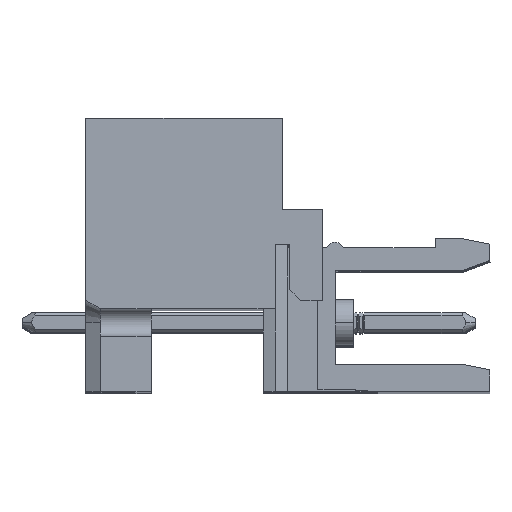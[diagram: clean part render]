
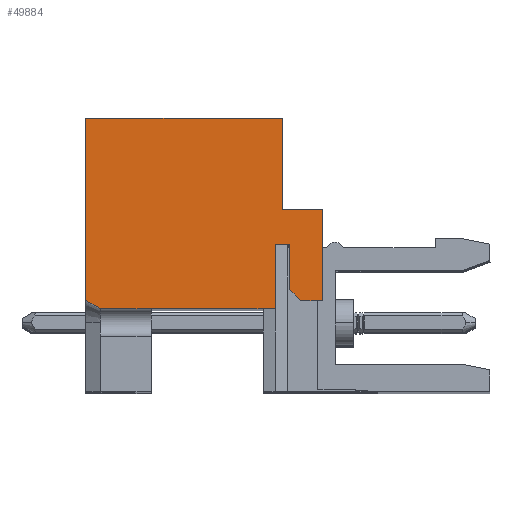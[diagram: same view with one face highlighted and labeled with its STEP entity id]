
A CAD part, top view. The second image highlights one B-rep face of the part: STEP entity #49884.
In plain terms, the highlighted planar face has unit normal (0, 0, 1).
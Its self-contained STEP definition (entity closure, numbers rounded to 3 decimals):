
#10965 = DIRECTION ( 'NONE',  ( 0., 1., 0. ) ) ;
#10966 = VECTOR ( 'NONE', #10965, 1000. ) ;
#10968 = CARTESIAN_POINT ( 'NONE',  ( 8.107, -2.697, 0. ) ) ;
#10969 = LINE ( 'NONE', #10968, #10966 ) ;
#11004 = CARTESIAN_POINT ( 'NONE',  ( 8.107, -0.197, 0. ) ) ;
#11005 = DIRECTION ( 'NONE',  ( 1., 0., 0. ) ) ;
#11006 = DIRECTION ( 'NONE',  ( 0., 0., 1. ) ) ;
#11007 = CARTESIAN_POINT ( 'NONE',  ( -4.893, -5.647, 0. ) ) ;
#11008 = AXIS2_PLACEMENT_3D ( 'NONE', #11007, #11006, #11005 ) ;
#11009 = PLANE ( 'NONE',  #11008 ) ;
#11010 = FACE_OUTER_BOUND ( 'NONE', #49885, .T. ) ;
#11011 = DIRECTION ( 'NONE',  ( 1., 0., 0. ) ) ;
#11012 = VECTOR ( 'NONE', #11011, 1000. ) ;
#11013 = CARTESIAN_POINT ( 'NONE',  ( 1.607, -5.197, 0. ) ) ;
#11014 = LINE ( 'NONE', #11013, #11012 ) ;
#11015 = CARTESIAN_POINT ( 'NONE',  ( 8.107, -5.197, 0. ) ) ;
#11022 = DIRECTION ( 'NONE',  ( -1., 0., 0. ) ) ;
#11023 = VECTOR ( 'NONE', #11022, 1000. ) ;
#11024 = CARTESIAN_POINT ( 'NONE',  ( 0.507, 4.803, 0. ) ) ;
#11025 = LINE ( 'NONE', #11024, #11023 ) ;
#11026 = CARTESIAN_POINT ( 'NONE',  ( 5.907, 4.803, 0. ) ) ;
#11027 = DIRECTION ( 'NONE',  ( 0., 1., 0. ) ) ;
#11028 = VECTOR ( 'NONE', #11027, 1000. ) ;
#11029 = CARTESIAN_POINT ( 'NONE',  ( 5.907, 2.303, 0. ) ) ;
#11030 = LINE ( 'NONE', #11029, #11028 ) ;
#11031 = CARTESIAN_POINT ( 'NONE',  ( 5.907, -0.197, 0. ) ) ;
#11032 = DIRECTION ( 'NONE',  ( -1., 0., 0. ) ) ;
#11033 = VECTOR ( 'NONE', #11032, 1000. ) ;
#11034 = CARTESIAN_POINT ( 'NONE',  ( 7.007, -0.197, 0. ) ) ;
#11035 = LINE ( 'NONE', #11034, #11033 ) ;
#11123 = DIRECTION ( 'NONE',  ( 1., 0., 0. ) ) ;
#11124 = VECTOR ( 'NONE', #11123, 1000. ) ;
#11125 = CARTESIAN_POINT ( 'NONE',  ( 2.107, -5.647, 0. ) ) ;
#11126 = LINE ( 'NONE', #11125, #11124 ) ;
#16646 = CARTESIAN_POINT ( 'NONE',  ( -4.893, -5.185, 0. ) ) ;
#16647 = DIRECTION ( 'NONE',  ( -0.866, 0.5, 0. ) ) ;
#16648 = VECTOR ( 'NONE', #16647, 1000. ) ;
#16649 = CARTESIAN_POINT ( 'NONE',  ( -4.493, -5.416, 0. ) ) ;
#16655 = LINE ( 'NONE', #16649, #16648 ) ;
#16659 = CARTESIAN_POINT ( 'NONE',  ( -4.093, -5.647, 0. ) ) ;
#42340 = VERTEX_POINT ( 'NONE', #78448 ) ;
#42343 = EDGE_CURVE ( 'NONE', #42416, #42340, #78447, .T. ) ;
#42408 = VERTEX_POINT ( 'NONE', #78561 ) ;
#42416 = VERTEX_POINT ( 'NONE', #78550 ) ;
#42442 = VERTEX_POINT ( 'NONE', #78576 ) ;
#42445 = EDGE_CURVE ( 'NONE', #42408, #53215, #78634, .T. ) ;
#42458 = EDGE_CURVE ( 'NONE', #53209, #42460, #78605, .T. ) ;
#42460 = VERTEX_POINT ( 'NONE', #78668 ) ;
#42474 = EDGE_CURVE ( 'NONE', #42508, #42442, #78653, .T. ) ;
#42489 = VERTEX_POINT ( 'NONE', #78696 ) ;
#42494 = EDGE_CURVE ( 'NONE', #42442, #42489, #78687, .T. ) ;
#42508 = VERTEX_POINT ( 'NONE', #78720 ) ;
#42533 = EDGE_CURVE ( 'NONE', #42489, #42416, #78750, .T. ) ;
#49852 = ORIENTED_EDGE ( 'NONE', *, *, #42474, .T. ) ;
#49866 = EDGE_CURVE ( 'NONE', #49881, #49891, #10969, .T. ) ;
#49867 = ORIENTED_EDGE ( 'NONE', *, *, #49868, .T. ) ;
#49868 = EDGE_CURVE ( 'NONE', #49891, #49869, #11035, .T. ) ;
#49869 = VERTEX_POINT ( 'NONE', #11031 ) ;
#49870 = ORIENTED_EDGE ( 'NONE', *, *, #49871, .T. ) ;
#49871 = EDGE_CURVE ( 'NONE', #49869, #49872, #11030, .T. ) ;
#49872 = VERTEX_POINT ( 'NONE', #11026 ) ;
#49873 = ORIENTED_EDGE ( 'NONE', *, *, #49874, .T. ) ;
#49874 = EDGE_CURVE ( 'NONE', #49872, #42408, #11025, .T. ) ;
#49875 = ORIENTED_EDGE ( 'NONE', *, *, #42445, .T. ) ;
#49876 = ORIENTED_EDGE ( 'NONE', *, *, #53214, .F. ) ;
#49877 = ORIENTED_EDGE ( 'NONE', *, *, #42458, .T. ) ;
#49878 = ORIENTED_EDGE ( 'NONE', *, *, #49940, .T. ) ;
#49881 = VERTEX_POINT ( 'NONE', #11015 ) ;
#49883 = EDGE_CURVE ( 'NONE', #42340, #49881, #11014, .T. ) ;
#49884 = ADVANCED_FACE ( 'NONE', ( #11010 ), #11009, .T. ) ;
#49885 = EDGE_LOOP ( 'NONE', ( #49886, #49887, #49888, #49889, #49890, #49867, #49870, #49873, #49875, #49876, #49877, #49878, #49852 ) ) ;
#49886 = ORIENTED_EDGE ( 'NONE', *, *, #42494, .T. ) ;
#49887 = ORIENTED_EDGE ( 'NONE', *, *, #42533, .T. ) ;
#49888 = ORIENTED_EDGE ( 'NONE', *, *, #42343, .T. ) ;
#49889 = ORIENTED_EDGE ( 'NONE', *, *, #49883, .T. ) ;
#49890 = ORIENTED_EDGE ( 'NONE', *, *, #49866, .T. ) ;
#49891 = VERTEX_POINT ( 'NONE', #11004 ) ;
#49940 = EDGE_CURVE ( 'NONE', #42460, #42508, #11126, .T. ) ;
#53209 = VERTEX_POINT ( 'NONE', #16659 ) ;
#53214 = EDGE_CURVE ( 'NONE', #53209, #53215, #16655, .T. ) ;
#53215 = VERTEX_POINT ( 'NONE', #16646 ) ;
#78444 = DIRECTION ( 'NONE',  ( 0.707, -0.707, 0. ) ) ;
#78445 = VECTOR ( 'NONE', #78444, 1000. ) ;
#78446 = CARTESIAN_POINT ( 'NONE',  ( 6.307, -4.597, 0. ) ) ;
#78447 = LINE ( 'NONE', #78446, #78445 ) ;
#78448 = CARTESIAN_POINT ( 'NONE',  ( 6.907, -5.197, 0. ) ) ;
#78550 = CARTESIAN_POINT ( 'NONE',  ( 6.307, -4.597, 0. ) ) ;
#78561 = CARTESIAN_POINT ( 'NONE',  ( -4.893, 4.803, 0. ) ) ;
#78576 = CARTESIAN_POINT ( 'NONE',  ( 5.507, -2.097, 0. ) ) ;
#78602 = DIRECTION ( 'NONE',  ( 1., 0., 0. ) ) ;
#78603 = VECTOR ( 'NONE', #78602, 1000. ) ;
#78604 = CARTESIAN_POINT ( 'NONE',  ( 1.607, -5.647, 0. ) ) ;
#78605 = LINE ( 'NONE', #78604, #78603 ) ;
#78631 = DIRECTION ( 'NONE',  ( 0., -1., 0. ) ) ;
#78632 = VECTOR ( 'NONE', #78631, 1000. ) ;
#78633 = CARTESIAN_POINT ( 'NONE',  ( -4.893, -0.422, 0. ) ) ;
#78634 = LINE ( 'NONE', #78633, #78632 ) ;
#78650 = DIRECTION ( 'NONE',  ( 0., 1., 0. ) ) ;
#78651 = VECTOR ( 'NONE', #78650, 1000. ) ;
#78652 = CARTESIAN_POINT ( 'NONE',  ( 5.507, -0.422, 0. ) ) ;
#78653 = LINE ( 'NONE', #78652, #78651 ) ;
#78668 = CARTESIAN_POINT ( 'NONE',  ( -1.293, -5.647, 0. ) ) ;
#78684 = DIRECTION ( 'NONE',  ( 1., 0., 0. ) ) ;
#78685 = VECTOR ( 'NONE', #78684, 1000. ) ;
#78686 = CARTESIAN_POINT ( 'NONE',  ( 1.607, -2.097, 0. ) ) ;
#78687 = LINE ( 'NONE', #78686, #78685 ) ;
#78696 = CARTESIAN_POINT ( 'NONE',  ( 6.307, -2.097, 0. ) ) ;
#78720 = CARTESIAN_POINT ( 'NONE',  ( 5.507, -5.647, 0. ) ) ;
#78743 = DIRECTION ( 'NONE',  ( 0., -1., 0. ) ) ;
#78744 = VECTOR ( 'NONE', #78743, 1000. ) ;
#78745 = CARTESIAN_POINT ( 'NONE',  ( 6.307, -0.422, 0. ) ) ;
#78750 = LINE ( 'NONE', #78745, #78744 ) ;
